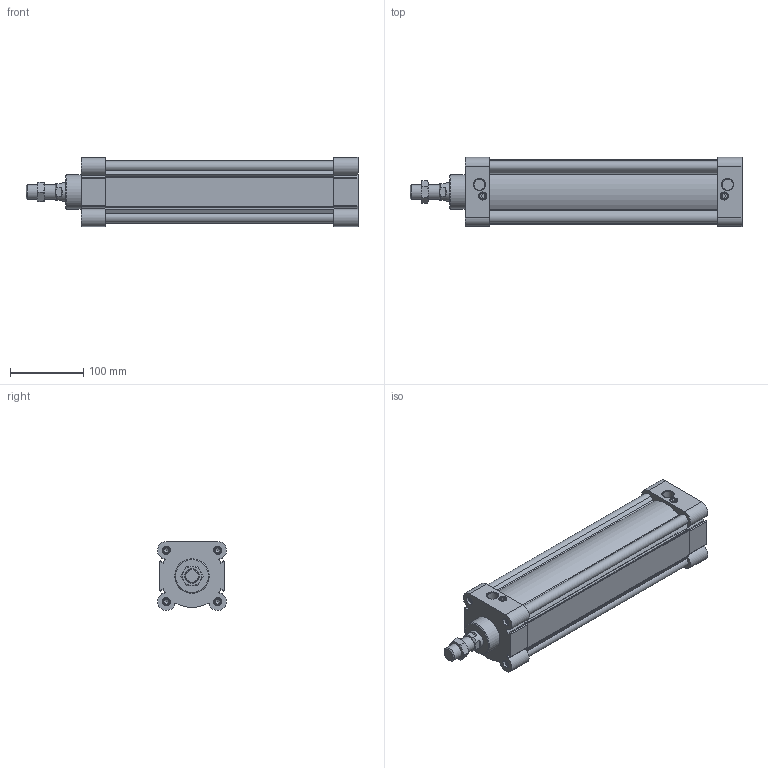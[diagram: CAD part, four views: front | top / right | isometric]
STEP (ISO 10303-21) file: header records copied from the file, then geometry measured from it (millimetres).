
FILE_DESCRIPTION(/* description */ ('STEP AP203'),/* implementation_level */ '2;1');
FILE_NAME(/* name */ 'SAU80x270(0_0_0)',/* time_stamp */ '2025-04-02T14:56:08+02:00',/* author */ ('License CC BY-ND 4.0'),/* organization */ ('CADENAS'),/* preprocessor_version */ 'ST-DEVELOPER v19.3',/* originating_system */ 'PARTsolutions',/* authorisation */ ' ');
FILE_SCHEMA (('CONFIG_CONTROL_DESIGN'));
Length unit declared in the file: millimetre
Products named in the file (5): SAU80x270(0,0,0); SAU80x270P(0); SAU80x270_body; SAU80x2700_rod; SU-80  Nut Piston Rod-P
Assembly tree (4 placements, depth 2):
  SAU80x270(0,0,0)
    SAU80x270P(0)
    SAU80x270_body
    SAU80x2700_rod
    SU-80  Nut Piston Rod-P
Bounding box: 452 x 94 x 93.98 mm (x, y, z)
Volume: 1435184.5 mm3; surface area: 321251.5 mm2
Topology: 3 solids, 3 shells, 239 faces, 588 edges, 377 vertices
Faces by surface type: plane 141, cylinder 61, cone 37
Full cylindrical faces by diameter (mm): 6.917 x8, 9 x2, 10 x2, 11 x8, 14.95 x2, 18.376 x1, 20 x1, 25 x2, 47 x1, 80 x2
Entity records: 6808 total; most frequent: CARTESIAN_POINT 1227, DIRECTION 1150, ORIENTED_EDGE 1040, EDGE_CURVE 520, AXIS2_PLACEMENT_3D 414, VERTEX_POINT 370, FACE_BOUND 324, LINE 322
